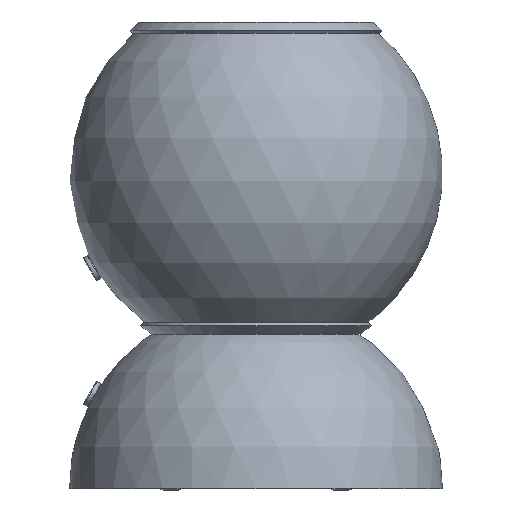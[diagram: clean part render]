
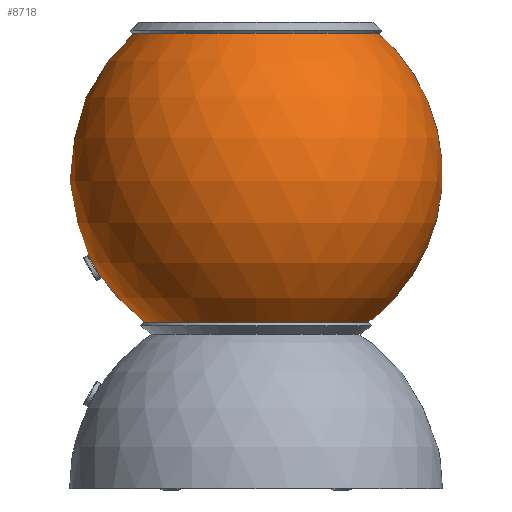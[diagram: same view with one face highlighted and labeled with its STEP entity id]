
A CAD part, front view. The second image highlights one B-rep face of the part: STEP entity #8718.
In plain terms, the highlighted spherical face has radius 70 mm.
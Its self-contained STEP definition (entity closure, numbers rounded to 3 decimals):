
#608=SPHERICAL_SURFACE('',#9865,70.);
#1392=CIRCLE('',#9866,40.);
#1393=CIRCLE('',#9867,4.);
#1394=CIRCLE('',#9868,44.5);
#3877=ORIENTED_EDGE('',*,*,#5157,.F.);
#3878=ORIENTED_EDGE('',*,*,#5158,.T.);
#3879=ORIENTED_EDGE('',*,*,#5159,.T.);
#5157=EDGE_CURVE('',#6021,#6021,#1392,.T.);
#5158=EDGE_CURVE('',#6022,#6022,#1393,.T.);
#5159=EDGE_CURVE('',#6023,#6023,#1394,.T.);
#6021=VERTEX_POINT('',#22527);
#6022=VERTEX_POINT('',#22529);
#6023=VERTEX_POINT('',#22531);
#7390=EDGE_LOOP('',(#3877));
#7391=EDGE_LOOP('',(#3878));
#7392=EDGE_LOOP('',(#3879));
#8079=FACE_BOUND('',#7390,.T.);
#8080=FACE_BOUND('',#7391,.T.);
#8081=FACE_BOUND('',#7392,.T.);
#8718=ADVANCED_FACE('',(#8079,#8080,#8081),#608,.T.);
#9865=AXIS2_PLACEMENT_3D('',#22525,#11939,#11940);
#9866=AXIS2_PLACEMENT_3D('',#22526,#11941,#11942);
#9867=AXIS2_PLACEMENT_3D('',#22528,#11943,#11944);
#9868=AXIS2_PLACEMENT_3D('',#22530,#11945,#11946);
#11939=DIRECTION('',(0.,0.,-1.));
#11940=DIRECTION('',(-1.,0.,0.));
#11941=DIRECTION('',(0.,0.,-1.));
#11942=DIRECTION('',(-1.,0.,0.));
#11943=DIRECTION('',(-0.866,0.,0.5));
#11944=DIRECTION('',(0.5,0.,0.866));
#11945=DIRECTION('',(0.,0.,-1.));
#11946=DIRECTION('',(-1.,0.,0.));
#22525=CARTESIAN_POINT('',(0.,0.,0.));
#22526=CARTESIAN_POINT('',(0.,0.,-57.446));
#22527=CARTESIAN_POINT('',(-40.,0.,-57.446));
#22528=CARTESIAN_POINT('',(60.523,0.,-34.943));
#22529=CARTESIAN_POINT('',(62.523,0.,-31.479));
#22530=CARTESIAN_POINT('',(0.,0.,54.035));
#22531=CARTESIAN_POINT('',(-44.5,0.,54.035));
